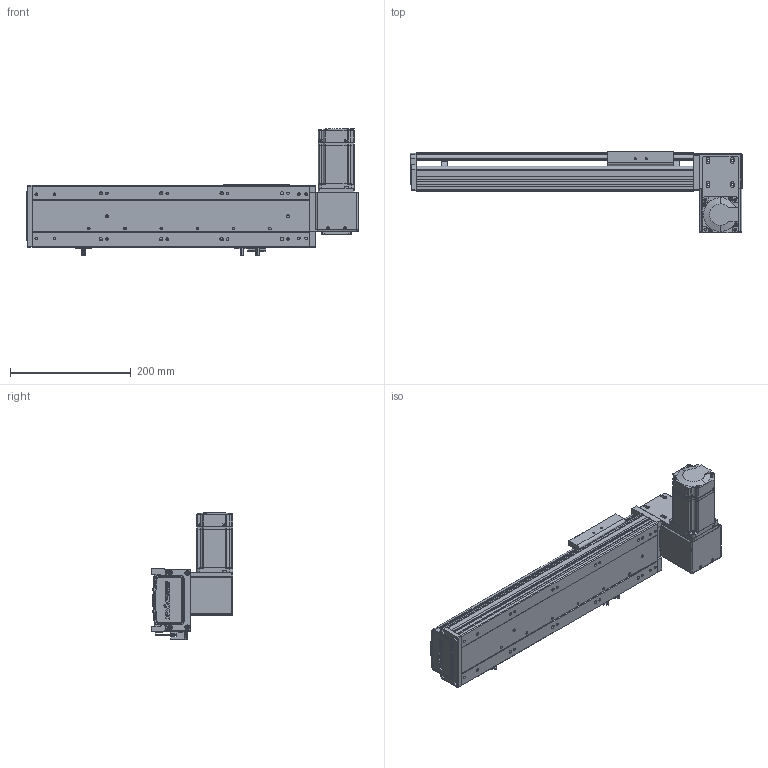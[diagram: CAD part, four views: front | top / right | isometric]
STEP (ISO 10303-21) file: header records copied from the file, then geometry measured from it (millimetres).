
FILE_DESCRIPTION (( 'STEP AP203' ), '1' );
FILE_NAME ('RY100-T-300-DR.SLDASM_250.step', '2024-04-25T03:21:54', ( '盈信电脑' ), ( '东莞市道滘镇水果街19号' ), 'SwSTEP 2.0', 'SolidWorks 2016', '' );
FILE_SCHEMA (( 'CONFIG_CONTROL_DESIGN' ));
Length unit declared in the file: millimetre
Products named in the file (16): RY100綴裔啣; RY100-T肮祭謫臏賑輸; RY100-T粣創揤踡裔; RY80-T肮祭謫狟殏俋欶; RY100俋离覜茼え; RY100-T-300-RK倰第菁釱_250; RY100-T-300-DR.SLDASM_250; 1; 侂狟200W萇儂; RY100-T-300-RK倰第奻裔_250; RY100-T翋肮祭謫裔啣; 覜茼ん672; RY100-T左右折电机安装板; RY100-T肮祭謫翋盓傅釱; 滅袉蝶18-10; RY100-T翋肮祭謫裔啣2
Assembly tree (19 placements, depth 3):
  RY100-T-300-DR.SLDASM_250
    RY100-T-300-RK倰第菁釱_250
    RY100-T-300-RK倰第奻裔_250
    RY100-T肮祭謫臏賑輸
    RY100綴裔啣
    覜茼ん672  x3
    RY100俋离覜茼え
    RY100-T肮祭謫翋盓傅釱
    RY100-T左右折电机安装板
    侂狟200W萇儂
      1
    RY100-T粣創揤踡裔
    滅袉蝶18-10  x2
    RY100-T翋肮祭謫裔啣2  x2
    RY100-T翋肮祭謫裔啣
    RY80-T肮祭謫狟殏俋欶
Bounding box: 550 x 135.5 x 209.7 mm (x, y, z)
Volume: 1445981.6 mm3; surface area: 560304.3 mm2
Topology: 18 solids, 18 shells, 2127 faces, 5872 edges, 3810 vertices
Faces by surface type: plane 1201, cylinder 723, cone 125, bspline 78
Entity records: 67141 total; most frequent: CARTESIAN_POINT 15912, ORIENTED_EDGE 10480, DIRECTION 9996, EDGE_CURVE 5240, LINE 3482, VECTOR 3482, VERTEX_POINT 3446, AXIS2_PLACEMENT_3D 3257
